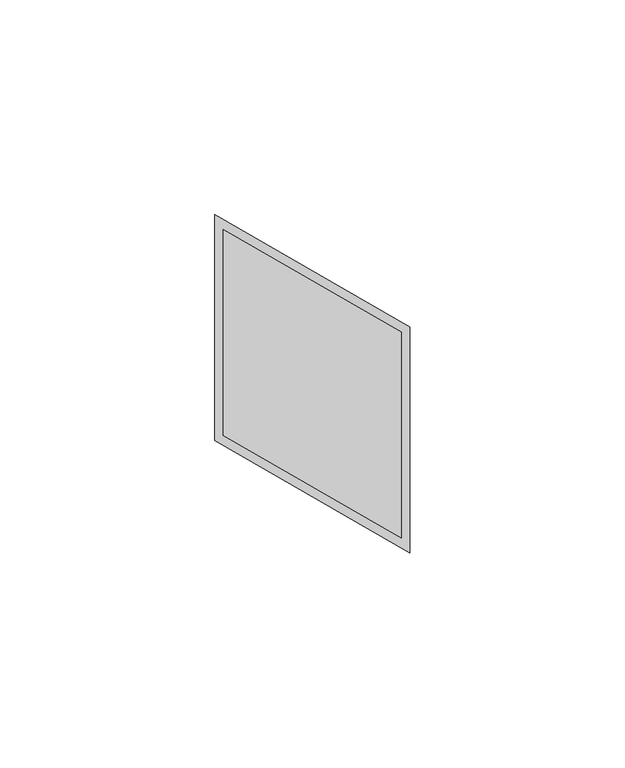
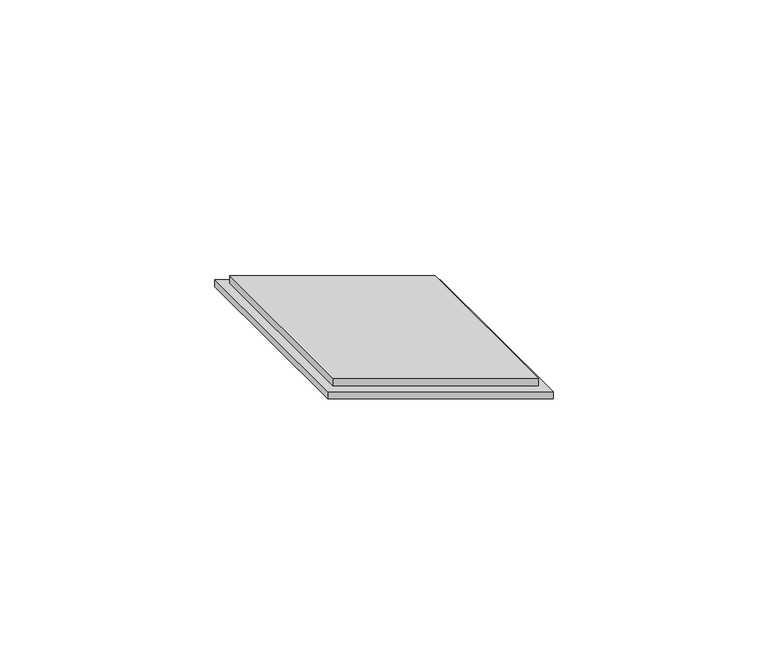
"""IFC4 building model written with IfcOpenShell, lengths in millimetres: proxy geometry, PBSHOP - CUBICA ARGENTO 4,8X8,3 : CUBICA ARGENTO - POSIÇÃO 01."""

from ifc_helpers import new_model, si_unit, frame, origin, origin_with_axes, place, context, project, spatial, polyline, outline, extrude, source, transform, mapped, element, save


def generic_models_b2b2c5c1(model_context):
    return source(origin(), model_context, "Body", "SweptSolid", [
        extrude(outline(polyline([(22.7119765, 13.1167077), (22.7119765, -39.4221668), (-22.7076581, -13.1991285), (-22.7076581, 39.339746), (22.7119765, 13.1167077)])), origin_with_axes(), (0.0, 0.0, 1.0), 2.0),
        extrude(outline(polyline([(-20.7076581, 35.8756443), (20.7119765, 11.9620071), (20.7119765, -35.9580652), (-20.7076581, -12.044428), (-20.7076581, 35.8756443)])), frame((0.0, 0.0, 2.0), z_axis=(0.0, 0.0, 1.0), x_axis=(1.0, 0.0, 0.0)), (0.0, 0.0, 1.0), 2.5),
    ])


if __name__ == "__main__":
    model = new_model("IFC4")
    model_context = context("Model", 3, world=origin())
    ifc_project = project(units=[si_unit("LENGTHUNIT", "METRE", prefix="MILLI")], contexts=[model_context])
    site = spatial("IfcSite", under=ifc_project)
    building = spatial("IfcBuilding", under=site)
    placement = place(None, origin())
    generic_models_shape = generic_models_b2b2c5c1(model_context)
    element("IfcBuildingElementProxy", 1, Name="PBSHOP - CUBICA ARGENTO 4,8X8,3 : CUBICA ARGENTO - POSIÇÃO 01", ObjectType="PBSHOP - CUBICA ARGENTO 4,8X8,3 : CUBICA ARGENTO - POSIÇÃO 01", at=placement, inside=building, context=model_context, shape_type="MappedRepresentation", body=[
        mapped(generic_models_shape, transform((0.0, 0.0, 0.0), x_axis=(1.0, 0.0, 0.0), y_axis=(0.0, 1.0, 0.0), z_axis=(0.0, 0.0, 1.0))),
    ])
    save(model, "model.ifc")
